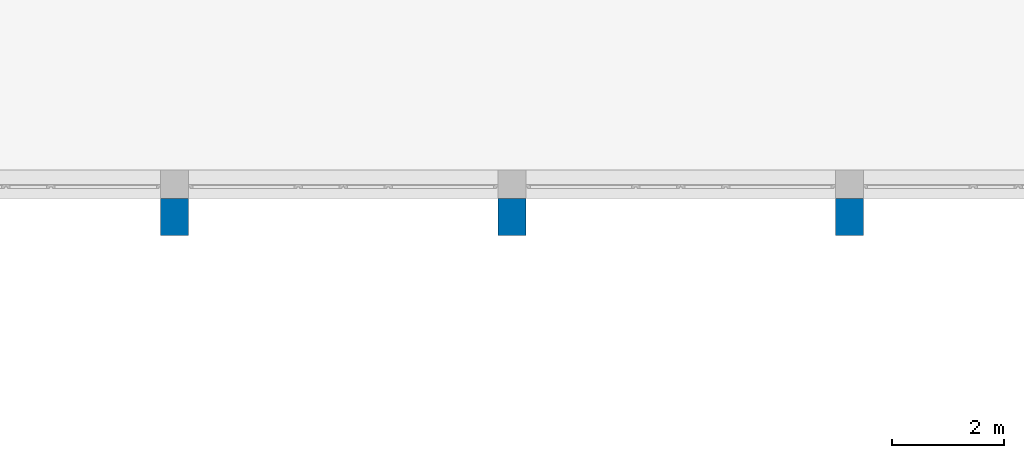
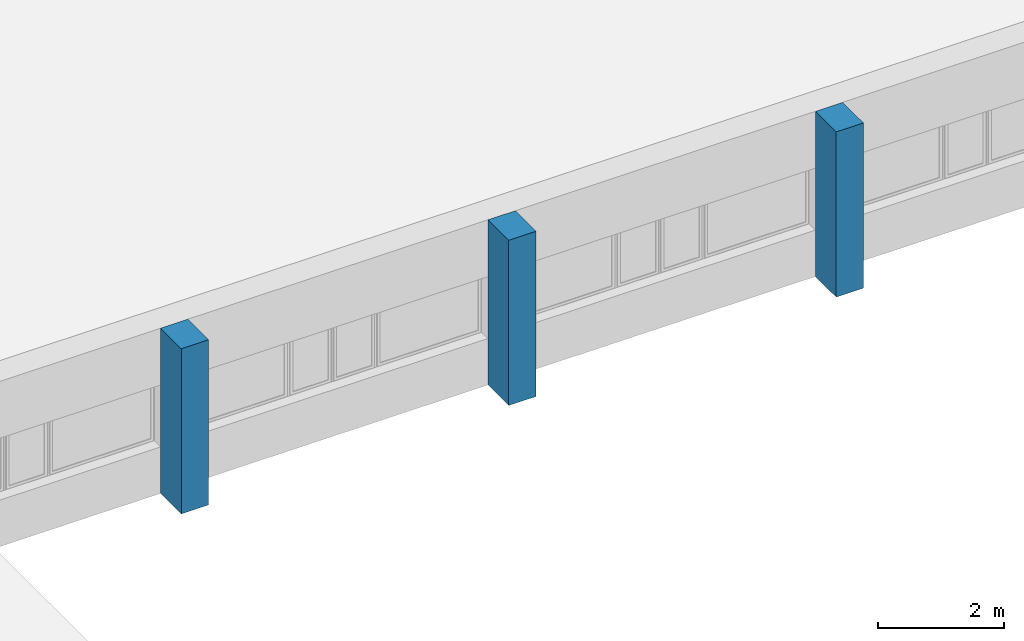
# One storey, part 3 of 10: 3 walls.
"""IFC2X3 building model written with IfcOpenShell, lengths in millimetres."""

from ifc_helpers import new_model, entity, si_unit, converted_unit, money_unit, direction, frame, origin_with_axes, place, context, subcontext, project, spatial, polyline, outline, extrude, material, layer, layer_set, layer_usage, type_object, element, save


model = new_model("IFC2X3")

# Units and contexts
model_context = context("Model", 3, precision=1e-05, world=origin_with_axes(), true_north=direction((0.0, 1.0)))
body_context = subcontext(model_context, "Body", "Model", "MODEL_VIEW")
ifc_project = project(units=[si_unit("LENGTHUNIT", "METRE", prefix="MILLI"), si_unit("AREAUNIT", "SQUARE_METRE"), si_unit("VOLUMEUNIT", "CUBIC_METRE"), converted_unit("PLANEANGLEUNIT", "DEGREE", entity("IfcPlaneAngleMeasure", 0.0174532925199), si_unit("PLANEANGLEUNIT", "RADIAN"), dimensions=[0, 0, 0, 0, 0, 0, 0]), si_unit("SOLIDANGLEUNIT", "STERADIAN"), money_unit("USD"), converted_unit("TIMEUNIT", "Year", entity("IfcTimeMeasure", 31556926.0), si_unit("TIMEUNIT", "SECOND"), dimensions=[0, 0, 0, 0, 0, 0, 0]), si_unit("MASSUNIT", "GRAM"), si_unit("THERMODYNAMICTEMPERATUREUNIT", "DEGREE_CELSIUS"), si_unit("LUMINOUSINTENSITYUNIT", "LUMEN")], contexts=[model_context])

# Site, building, storey
site_placement = place(None, origin_with_axes())
site = spatial("IfcSite", under=ifc_project, at=site_placement, Name="Site", CompositionType="ELEMENT")
building_placement = place(site_placement, origin_with_axes())
building = spatial("IfcBuilding", under=site, at=building_placement, Name="Building", CompositionType="ELEMENT")
storey_placement = place(building_placement, origin_with_axes())
storey = spatial("IfcBuildingStorey", under=building, at=storey_placement, Name="2KORRUS", CompositionType="ELEMENT", Elevation=0.0)

# Walls
ifc_material = material(Name="Olemasolevad seinad tellis, uus viimistlus")
ifc_layer = layer(ifc_material, 500.0, ventilated="UNKNOWN")
ifc_layer_set = layer_set([ifc_layer], Name="Olemasolevad seinad tellis, uus viimistlus 500")
ifc_layer_usage_1 = layer_usage(ifc_layer_set, "AXIS2", "POSITIVE", -100.0)
wall_type = type_object("IfcWallType", Name="Olemasolevad seinad tellis, uus viimistlus 500", PredefinedType="NOTDEFINED")
wall_1_placement = place(storey_placement, frame((9.70329668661, -20796.6419407, 0.0), z_axis=(0.0, 0.0, 1.0), x_axis=(0.0, 1.0, 0.0)))
element("IfcWallStandardCase", 1, at=wall_1_placement, inside=storey, type_object=wall_type, material=ifc_layer_usage_1, Name="vs1", ObjectType="vs1", context=body_context, shape_type="SweptSolid", body=[
    extrude(outline(polyline([(0.0, -100.0), (657.4020413, -100.0), (657.4020413, 400.0), (0.0, 400.0), (0.0, -100.0)])), origin_with_axes(), (0.0, 0.0, 1.0), 3200.0),
])
ifc_layer_usage_2 = layer_usage(ifc_layer_set, "AXIS2", "POSITIVE", -100.0)
wall_2_placement = place(storey_placement, frame((-5990.29670331, -20796.6419407, 0.0), z_axis=(0.0, 0.0, 1.0), x_axis=(0.0, 1.0, 0.0)))
element("IfcWallStandardCase", 2, at=wall_2_placement, inside=storey, type_object=wall_type, material=ifc_layer_usage_2, Name="vs1", ObjectType="vs1", context=body_context, shape_type="SweptSolid", body=[
    extrude(outline(polyline([(0.0, -100.0), (657.4020413, -100.0), (657.4020413, 400.0), (0.0, 400.0), (0.0, -100.0)])), origin_with_axes(), (0.0, 0.0, 1.0), 3200.0),
])
ifc_layer_usage_3 = layer_usage(ifc_layer_set, "AXIS2", "POSITIVE", -100.0)
wall_3_placement = place(storey_placement, frame((6009.70329669, -20796.6419407, 0.0), z_axis=(0.0, 0.0, 1.0), x_axis=(0.0, 1.0, 0.0)))
element("IfcWallStandardCase", 3, at=wall_3_placement, inside=storey, type_object=wall_type, material=ifc_layer_usage_3, Name="vs1", ObjectType="vs1", context=body_context, shape_type="SweptSolid", body=[
    extrude(outline(polyline([(0.0, -100.0), (657.4020413, -100.0), (657.4020413, 400.0), (0.0, 400.0), (0.0, -100.0)])), origin_with_axes(), (0.0, 0.0, 1.0), 3200.0),
])

save(model, "model.ifc")
